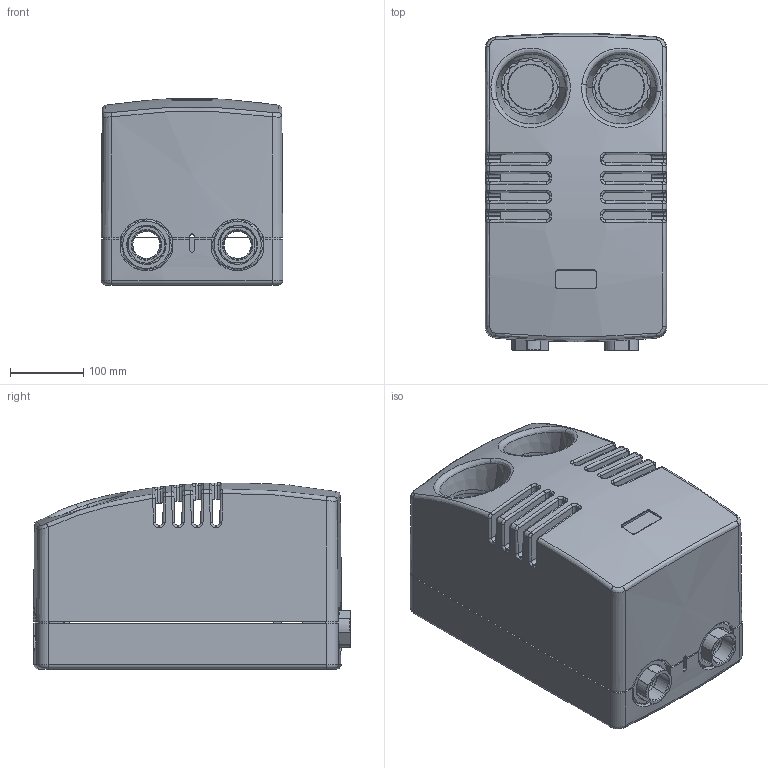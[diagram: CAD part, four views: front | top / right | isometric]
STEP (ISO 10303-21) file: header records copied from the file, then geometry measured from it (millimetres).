
FILE_DESCRIPTION (( 'STEP AP214' ), '1' );
FILE_NAME ('DN32.STEP', '2025-10-31T08:13:11', ( '' ), ( '' ), 'SwSTEP 2.0', 'SolidWorks 2024', '' );
FILE_SCHEMA (( 'AUTOMOTIVE_DESIGN' ));
Length unit declared in the file: millimetre
Products named in the file (1): DN32
Bounding box: 249 x 434.57 x 254.78 mm (x, y, z)
Surface area: 654403.2 mm2 (no closed solid volume)
Topology: 0 solids, 17 shells, 433 faces, 1573 edges, 1122 vertices
Faces by surface type: cylinder 145, bspline 120, plane 106, cone 47, torus 14, sphere 1
Entity records: 25721 total; most frequent: CARTESIAN_POINT 14020, ORIENTED_EDGE 2451, DIRECTION 2065, EDGE_CURVE 1573, VERTEX_POINT 1122, AXIS2_PLACEMENT_3D 768, VECTOR 529, LINE 529
